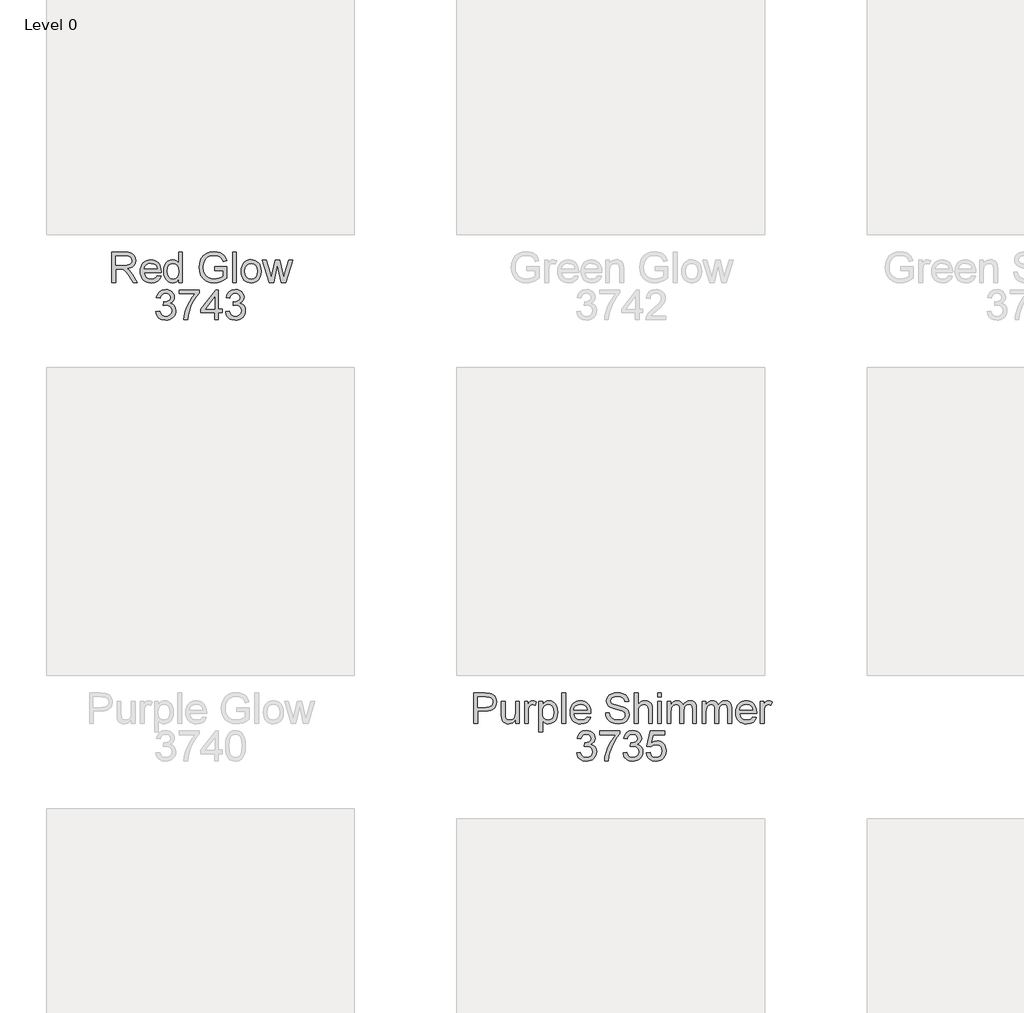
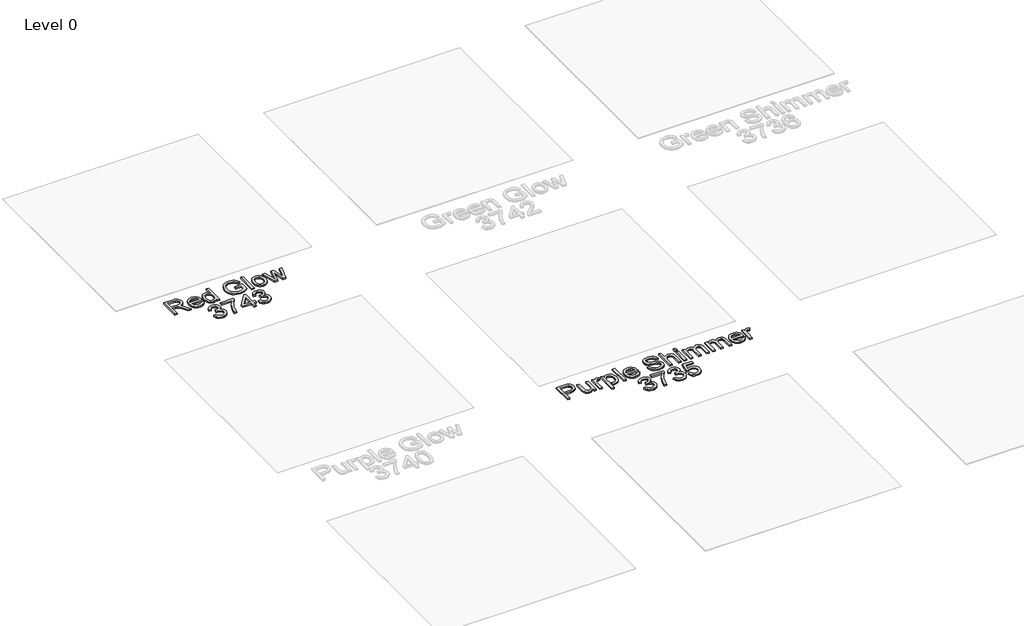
# One storey, part 5 of 14: 2 proxies.
"""IFC4 building model written with IfcOpenShell, lengths in millimetres."""

from ifc_helpers import new_model, si_unit, origin, origin_with_axes, place, context, project, spatial, polyline, outline, extrude, element, save

model = new_model("IFC4")

# Units and contexts
model_context = context("Model", 3, world=origin())
ifc_project = project(units=[si_unit("LENGTHUNIT", "METRE", prefix="MILLI")], contexts=[model_context])

# Site, building, storey
site = spatial("IfcSite", under=ifc_project)
building = spatial("IfcBuilding", under=site)
storey = spatial("IfcBuildingStorey", under=building, Name="Level 0", Elevation=0.0)

# Proxies
placement = place(None, origin())
element("IfcBuildingElementProxy", 1, Name="300mm Arial", ObjectType="300mm Arial", at=placement, inside=storey, context=model_context, shape_type="SweptSolid", body=[
    extrude(outline(polyline([(-8815.4214187, -2137.1730179), (-8815.4214187, -1841.7884025), (-8688.1377648, -1841.7884025), (-8653.9280292, -1843.78059), (-8629.0392071, -1849.7571525), (-8610.8481014, -1860.7908063), (-8596.7315148, -1877.9542679), (-8587.6720196, -1899.2373207), (-8584.6521879, -1922.6297486), (-8589.6551927, -1951.7283063), (-8604.6642071, -1975.8509025), (-8616.0336482, -1985.6811308), (-8630.1299523, -1993.5372005), (-8666.5031494, -2003.326864), (-8645.5175725, -2019.1201332), (-8615.5896879, -2057.1249409), (-8566.3348802, -2137.1730179), (-8609.243534, -2137.1730179), (-8647.681034, -2075.9470563), (-8675.4454571, -2035.4182102), (-8694.9526687, -2016.2715755), (-8712.5127648, -2009.2403255), (-8733.931034, -2007.9422486), (-8778.4983417, -2007.9422486), (-8778.4983417, -2137.1730179), (-8815.4214187, -2137.1730179)]), holes=[polyline([(-8778.4983417, -1971.0191717), (-8695.854111, -1971.0191717), (-8672.119135, -1969.7120804), (-8653.7026687, -1965.7908063), (-8639.838486, -1958.9939313), (-8629.760361, -1949.0600371), (-8623.6215389, -1937.0438111), (-8621.5752648, -1923.9999409), (-8625.47851, -1905.9891236), (-8637.1882456, -1891.4759025), (-8657.3354812, -1881.9025852), (-8686.5512264, -1878.7114794), (-8778.4983417, -1878.7114794), (-8778.4983417, -1971.0191717)])]), origin_with_axes(), (0.0, 0.0, 1.0), 20.0),
    extrude(outline(polyline([(-8372.7771879, -2072.5576332), (-8336.5752648, -2077.1730179), (-8349.619135, -2104.4506621), (-8370.4334379, -2124.8412871), (-8398.5494235, -2137.5516236), (-8433.4983417, -2141.7884025), (-8456.408498, -2139.9607282), (-8476.821659, -2134.4777054), (-8494.7378249, -2125.339334), (-8510.1569956, -2112.545614), (-8522.5563345, -2096.4526152), (-8531.4130052, -2077.4164073), (-8536.7270076, -2055.4369902), (-8538.4983417, -2030.514364), (-8536.7089788, -2004.7466356), (-8531.3408898, -1982.0347967), (-8522.3940749, -1962.3788472), (-8509.868534, -1945.7787871), (-8494.4899283, -1932.5906861), (-8476.9839187, -1923.170614), (-8457.3505052, -1917.5185707), (-8435.5896879, -1915.6345563), (-8414.529742, -1917.5140635), (-8395.4845196, -1923.1525852), (-8378.4540208, -1932.5501212), (-8363.4382456, -1945.7066717), (-8351.1808838, -1962.2706741), (-8342.4256254, -1981.8905659), (-8337.1724703, -2004.5663472), (-8335.4214187, -2030.2980179), (-8335.6377648, -2040.2499409), (-8501.5752648, -2040.2499409), (-8495.1840389, -2067.8881621), (-8480.337284, -2088.2066717), (-8458.9100004, -2100.7006621), (-8432.7771879, -2104.8653255), (-8413.1257456, -2102.936239), (-8396.5752648, -2097.1489794), (-8383.1257456, -2087.1429698), (-8372.7771879, -2072.5576332)]), holes=[polyline([(-8501.5752648, -2003.326864), (-8372.3444956, -2003.326864), (-8377.338486, -1983.8196525), (-8387.1281494, -1969.8653255), (-8408.6545917, -1956.8845563), (-8435.7339187, -1952.5576332), (-8460.6227408, -1956.0101573), (-8481.2026687, -1966.3677294), (-8495.5085581, -1982.5125611), (-8501.5752648, -2003.326864)])]), origin_with_axes(), (0.0, 0.0, 1.0), 20.0),
    extrude(outline(polyline([(-8164.6521879, -2137.1730179), (-8164.6521879, -2102.3412871), (-8175.6993634, -2119.5994001), (-8189.0812744, -2131.9266236), (-8204.7979211, -2139.3229578), (-8222.8493033, -2141.7884025), (-8246.7194956, -2138.2186909), (-8268.5704571, -2127.5095563), (-8287.0680533, -2110.4091957), (-8300.8781494, -2087.6658063), (-8309.477909, -2060.1988592), (-8312.3444956, -2028.9278255), (-8309.7032696, -1998.0444121), (-8301.7795917, -1970.1537871), (-8288.5824764, -1946.842489), (-8270.1209379, -1929.6970563), (-8247.7922119, -1919.1501813), (-8222.993534, -1915.6345563), (-8204.9286302, -1918.1495804), (-8188.9550725, -1925.6946525), (-8175.415409, -1937.2601573), (-8164.6521879, -1951.8364794), (-8164.6521879, -1841.7884025), (-8127.729111, -1841.7884025), (-8127.729111, -2137.1730179), (-8164.6521879, -2137.1730179)]), holes=[polyline([(-8275.4214187, -2028.7835948), (-8271.2567552, -2062.1820323), (-8258.7627648, -2085.9350371), (-8240.6077167, -2100.1327534), (-8219.4598802, -2104.8653255), (-8198.3210581, -2100.3490996), (-8180.6257456, -2086.8004217), (-8168.6455773, -2063.966888), (-8164.6521879, -2031.5960948), (-8168.7176927, -1996.2054698), (-8180.9142071, -1971.6682102), (-8199.0602408, -1957.3352775), (-8220.9743033, -1952.5576332), (-8242.338486, -1957.1459746), (-8259.8444956, -1970.9109986), (-8271.5271879, -1994.5558304), (-8275.4214187, -2028.7835948)])]), origin_with_axes(), (0.0, 0.0, 1.0), 20.0),
    extrude(outline(polyline([(-7813.8829571, -2021.7884025), (-7813.8829571, -1984.8653255), (-7693.8829571, -1984.8653255), (-7693.8829571, -2095.2739794), (-7723.0446158, -2115.5564313), (-7753.1257456, -2130.1057102), (-7784.0542312, -2138.8677294), (-7815.7579571, -2141.7884025), (-7857.1792312, -2137.1459746), (-7894.6161302, -2123.2186909), (-7925.7158898, -2100.4933304), (-7948.1257456, -2069.4566717), (-7961.6744235, -2032.2271044), (-7966.1906494, -1990.9230179), (-7961.6924523, -1949.3214554), (-7948.197861, -1910.6225371), (-7926.2657696, -1878.1615996), (-7896.4550725, -1855.2739794), (-7860.1449764, -1841.6982582), (-7818.7146879, -1837.1730179), (-7788.3000244, -1839.796215), (-7760.9502648, -1847.6658063), (-7737.9184139, -1860.2138832), (-7720.4574764, -1876.8725371), (-7707.5398081, -1898.4440515), (-7698.1377648, -1925.7307102), (-7732.1762264, -1935.3220563), (-7739.775385, -1915.8599169), (-7749.0151687, -1901.1754217), (-7761.2387264, -1890.1057102), (-7777.7892071, -1881.4879217), (-7797.5217792, -1875.9440515), (-7819.291611, -1874.0960948), (-7844.775385, -1876.0882823), (-7866.5632456, -1882.0648448), (-7884.5740629, -1891.2775852), (-7898.7267071, -1902.9783063), (-7917.729111, -1931.4278255), (-7926.3829571, -1959.3004217), (-7929.2675725, -1989.4085948), (-7925.7970196, -2024.71809), (-7915.385361, -2053.7715755), (-7898.3481014, -2076.3617198), (-7875.0007456, -2092.2811909), (-7847.6780292, -2101.7192919), (-7818.7146879, -2104.8653255), (-7793.1407696, -2102.4945323), (-7768.197861, -2095.3821525), (-7746.5362023, -2085.5834746), (-7730.806034, -2075.1537871), (-7730.806034, -2021.7884025), (-7813.8829571, -2021.7884025)])), origin_with_axes(), (0.0, 0.0, 1.0), 20.0),
    extrude(outline(polyline([(-7638.4983417, -2137.1730179), (-7638.4983417, -1841.7884025), (-7601.5752648, -1841.7884025), (-7601.5752648, -2137.1730179), (-7638.4983417, -2137.1730179)])), origin_with_axes(), (0.0, 0.0, 1.0), 20.0),
    extrude(outline(polyline([(-7555.4214187, -2028.7114794), (-7553.4247239, -2000.6180299), (-7547.4346398, -1976.4097967), (-7537.4511663, -1956.0867799), (-7523.4743033, -1939.6489794), (-7509.4027889, -1929.1426693), (-7493.8709379, -1921.6381621), (-7476.8787504, -1917.1354578), (-7458.4262264, -1915.6345563), (-7438.0558838, -1917.4622306), (-7419.6371639, -1922.9452534), (-7403.1700665, -1932.0836248), (-7388.6545917, -1944.8773448), (-7376.8073862, -1960.893721), (-7368.3450965, -1979.7000611), (-7363.2677227, -2001.2963652), (-7361.5752648, -2025.6826332), (-7364.5680533, -2062.9843159), (-7373.5464187, -2091.3797486), (-7388.2489427, -2112.6447727), (-7408.4142071, -2128.5552294), (-7432.3655292, -2138.4801092), (-7458.4262264, -2141.7884025), (-7479.0940449, -2139.967489), (-7497.6840389, -2134.5047486), (-7514.1962083, -2125.4001813), (-7528.6305533, -2112.6537871), (-7540.3515569, -2096.4819121), (-7548.7237023, -2077.1009025), (-7553.7469896, -2054.5107582), (-7555.4214187, -2028.7114794)]), holes=[polyline([(-7518.4983417, -2028.639364), (-7514.2255052, -2062.0558304), (-7501.4069956, -2085.8629217), (-7482.1161302, -2100.1147246), (-7458.4262264, -2104.8653255), (-7434.8444956, -2100.0876813), (-7415.5896879, -2085.7547486), (-7402.7711783, -2061.6321525), (-7398.4983417, -2027.4855179), (-7402.7982215, -1995.0426092), (-7415.697861, -1971.5600371), (-7434.9797119, -1957.3082342), (-7458.4262264, -1952.5576332), (-7482.1161302, -1957.2902054), (-7501.4069956, -1971.4879217), (-7514.2255052, -1995.2409265), (-7518.4983417, -2028.639364)])]), origin_with_axes(), (0.0, 0.0, 1.0), 20.0),
    extrude(outline(polyline([(-7284.0512264, -2137.1730179), (-7350.0368033, -1920.2499409), (-7311.6714187, -1920.2499409), (-7274.243534, -2046.8124409), (-7263.0656494, -2092.0287871), (-7253.9069956, -2048.4710948), (-7224.1233417, -1920.2499409), (-7180.1329571, -1920.2499409), (-7150.493534, -2048.1105179), (-7142.3444956, -2087.5576332), (-7130.6618033, -2045.9470563), (-7093.1618033, -1920.2499409), (-7054.6521879, -1920.2499409), (-7121.1425725, -2137.1730179), (-7165.7819956, -2137.1730179), (-7194.1233417, -2009.9614794), (-7202.3444956, -1970.2980179), (-7238.9069956, -2137.1730179), (-7284.0512264, -2137.1730179)])), origin_with_axes(), (0.0, 0.0, 1.0), 20.0),
    extrude(outline(polyline([(-8386.1906494, -2423.326864), (-8349.2675725, -2418.7114794), (-8341.0013465, -2441.9146044), (-8328.8949764, -2457.5816717), (-8312.35351, -2466.5059505), (-8290.7819956, -2469.4807102), (-8265.4694956, -2465.3881621), (-8245.9262264, -2453.1105179), (-8233.432236, -2434.7932102), (-8229.2675725, -2412.5816717), (-8233.3961783, -2391.4969361), (-8245.7819956, -2374.3965755), (-8264.5319956, -2363.0654457), (-8287.7531494, -2359.2884025), (-8313.6425725, -2363.326864), (-8309.5319956, -2326.4037871), (-8303.618534, -2326.8364794), (-8281.4971398, -2324.186239), (-8261.7194956, -2316.2355179), (-8247.7651687, -2302.7859986), (-8243.1137264, -2283.639364), (-8246.4851206, -2267.6928496), (-8256.5993033, -2254.7571525), (-8272.0319956, -2246.1844361), (-8291.3589187, -2243.326864), (-8310.7218994, -2246.2114794), (-8326.5512264, -2254.8653255), (-8338.1077167, -2269.2884025), (-8344.6521879, -2289.4807102), (-8381.5752648, -2284.8653255), (-8370.7038706, -2251.7102775), (-8351.3589187, -2226.9566717), (-8324.8925725, -2211.5420082), (-8292.6569956, -2206.4037871), (-8269.4448562, -2208.93684), (-8248.1257456, -2216.5359986), (-8230.150986, -2228.5251813), (-8216.9718994, -2244.2283063), (-8208.8859619, -2262.3202534), (-8206.1906494, -2281.4759025), (-8208.7507456, -2299.3244602), (-8216.431034, -2315.514364), (-8229.1233417, -2329.3064313), (-8246.7194956, -2339.9614794), (-8223.6065148, -2349.3004217), (-8206.479111, -2365.201864), (-8195.8781494, -2386.8004217), (-8192.3444956, -2413.2307102), (-8194.1113225, -2431.9626813), (-8199.4118033, -2449.2162871), (-8208.2459379, -2464.9915275), (-8220.6137264, -2479.2884025), (-8235.6813345, -2491.1513832), (-8252.6149283, -2499.6249409), (-8271.4145076, -2504.7090755), (-8292.0800725, -2506.4037871), (-8327.7771879, -2500.6165275), (-8343.1377648, -2493.3824529), (-8356.8396879, -2483.2547486), (-8368.3285701, -2470.8283664), (-8377.0500244, -2456.6982582), (-8386.1906494, -2423.326864)])), origin_with_axes(), (0.0, 0.0, 1.0), 20.0),
    extrude(outline(polyline([(-8160.0368033, -2247.9422486), (-8160.0368033, -2211.0191717), (-7966.1906494, -2211.0191717), (-7966.1906494, -2240.8749409), (-7993.8198562, -2275.841888), (-8021.1786302, -2320.3100371), (-8045.3102408, -2370.2228977), (-8063.2579571, -2421.5239794), (-8072.056034, -2459.9073929), (-8076.9598802, -2501.7884025), (-8113.8829571, -2501.7884025), (-8109.8895677, -2463.7295082), (-8099.2074764, -2418.4951332), (-8082.1251446, -2370.5474169), (-8058.931034, -2324.3484986), (-8031.8517071, -2282.5846765), (-8003.1137264, -2247.9422486), (-8160.0368033, -2247.9422486)])), origin_with_axes(), (0.0, 0.0, 1.0), 20.0),
    extrude(outline(polyline([(-7813.8829571, -2501.7884025), (-7813.8829571, -2432.5576332), (-7947.729111, -2432.5576332), (-7947.729111, -2395.6345563), (-7804.6521879, -2211.0191717), (-7776.9598802, -2211.0191717), (-7776.9598802, -2395.6345563), (-7740.0368033, -2395.6345563), (-7740.0368033, -2432.5576332), (-7776.9598802, -2432.5576332), (-7776.9598802, -2501.7884025), (-7813.8829571, -2501.7884025)]), holes=[polyline([(-7813.8829571, -2395.6345563), (-7813.8829571, -2281.5480179), (-7902.2964187, -2395.6345563), (-7813.8829571, -2395.6345563)])]), origin_with_axes(), (0.0, 0.0, 1.0), 20.0),
    extrude(outline(polyline([(-7707.729111, -2423.326864), (-7670.806034, -2418.7114794), (-7662.5398081, -2441.9146044), (-7650.4334379, -2457.5816717), (-7633.8919715, -2466.5059505), (-7612.3204571, -2469.4807102), (-7587.0079571, -2465.3881621), (-7567.4646879, -2453.1105179), (-7554.9706975, -2434.7932102), (-7550.806034, -2412.5816717), (-7554.9346398, -2391.4969361), (-7567.3204571, -2374.3965755), (-7586.0704571, -2363.0654457), (-7609.291611, -2359.2884025), (-7635.181034, -2363.326864), (-7631.0704571, -2326.4037871), (-7625.1569956, -2326.8364794), (-7603.0356014, -2324.186239), (-7583.2579571, -2316.2355179), (-7569.3036302, -2302.7859986), (-7564.6521879, -2283.639364), (-7568.0235821, -2267.6928496), (-7578.1377648, -2254.7571525), (-7593.5704571, -2246.1844361), (-7612.8973802, -2243.326864), (-7632.260361, -2246.2114794), (-7648.0896879, -2254.8653255), (-7659.6461783, -2269.2884025), (-7666.1906494, -2289.4807102), (-7703.1137264, -2284.8653255), (-7692.2423321, -2251.7102775), (-7672.8973802, -2226.9566717), (-7646.431034, -2211.5420082), (-7614.1954571, -2206.4037871), (-7590.9833177, -2208.93684), (-7569.6642071, -2216.5359986), (-7551.6894475, -2228.5251813), (-7538.510361, -2244.2283063), (-7530.4244235, -2262.3202534), (-7527.729111, -2281.4759025), (-7530.2892071, -2299.3244602), (-7537.9694956, -2315.514364), (-7550.6618033, -2329.3064313), (-7568.2579571, -2339.9614794), (-7545.1449764, -2349.3004217), (-7528.0175725, -2365.201864), (-7517.416611, -2386.8004217), (-7513.8829571, -2413.2307102), (-7515.649784, -2431.9626813), (-7520.9502648, -2449.2162871), (-7529.7843994, -2464.9915275), (-7542.1521879, -2479.2884025), (-7557.2197961, -2491.1513832), (-7574.1533898, -2499.6249409), (-7592.9529691, -2504.7090755), (-7613.618534, -2506.4037871), (-7649.3156494, -2500.6165275), (-7664.6762264, -2493.3824529), (-7678.3781494, -2483.2547486), (-7689.8670316, -2470.8283664), (-7698.588486, -2456.6982582), (-7707.729111, -2423.326864)])), origin_with_axes(), (0.0, 0.0, 1.0), 20.0),
])
element("IfcBuildingElementProxy", 2, Name="300mm Arial", ObjectType="300mm Arial", at=placement, inside=storey, context=model_context, shape_type="SweptSolid", body=[
    extrude(outline(polyline([(-5287.729111, -6437.1730179), (-5287.729111, -6141.7884025), (-5178.2579571, -6141.7884025), (-5134.1233417, -6144.6009025), (-5114.4448562, -6149.8563111), (-5098.2459379, -6158.4109986), (-5085.2020677, -6170.6525852), (-5074.9887264, -6186.9686909), (-5068.3901687, -6206.2144842), (-5066.1906494, -6227.2451332), (-5072.1311542, -6262.0588352), (-5079.5567852, -6277.2887029), (-5089.9526687, -6291.0672486), (-5104.224754, -6302.4885227), (-5123.2789908, -6310.6465755), (-5147.115379, -6315.5414073), (-5175.7339187, -6317.1730179), (-5250.806034, -6317.1730179), (-5250.806034, -6437.1730179), (-5287.729111, -6437.1730179)]), holes=[polyline([(-5250.806034, -6280.2499409), (-5173.5704571, -6280.2499409), (-5140.8300725, -6276.8605179), (-5119.1954571, -6266.6922486), (-5107.134159, -6250.3761429), (-5103.1137264, -6228.5432102), (-5105.4845196, -6211.9566717), (-5112.5968994, -6197.9662871), (-5123.5674523, -6187.4374409), (-5137.5127648, -6181.2355179), (-5174.4358417, -6178.7114794), (-5250.806034, -6178.7114794), (-5250.806034, -6280.2499409)])]), origin_with_axes(), (0.0, 0.0, 1.0), 20.0),
    extrude(outline(polyline([(-4881.5752648, -6437.1730179), (-4881.5752648, -6399.889364), (-4894.9346398, -6418.2201933), (-4910.493534, -6431.3136429), (-4928.2519475, -6439.1697126), (-4948.2098802, -6441.7884025), (-4966.1936542, -6439.9494602), (-4982.9334379, -6434.4326332), (-4996.977909, -6426.139364), (-5006.8757456, -6415.9710948), (-5017.8733417, -6388.7835948), (-5020.0368033, -6354.4566717), (-5020.0368033, -6220.2499409), (-4983.1137264, -6220.2499409), (-4983.1137264, -6337.076864), (-4980.8781494, -6374.7210948), (-4975.4965389, -6387.2781861), (-4966.274784, -6396.8244602), (-4953.8258658, -6402.8551092), (-4938.7627648, -6404.8653255), (-4922.8342792, -6402.8100371), (-4907.9334379, -6396.6441717), (-4895.6467792, -6386.935638), (-4887.5608417, -6374.2523448), (-4883.071659, -6356.8815515), (-4881.5752648, -6333.1105179), (-4881.5752648, -6220.2499409), (-4844.6521879, -6220.2499409), (-4844.6521879, -6437.1730179), (-4881.5752648, -6437.1730179)])), origin_with_axes(), (0.0, 0.0, 1.0), 20.0),
    extrude(outline(polyline([(-4793.8829571, -6437.1730179), (-4793.8829571, -6220.2499409), (-4761.5752648, -6220.2499409), (-4761.5752648, -6252.3412871), (-4749.6401687, -6233.7355179), (-4738.6425725, -6222.7739794), (-4727.6089187, -6217.4194121), (-4715.5656494, -6215.6345563), (-4697.1762264, -6218.483114), (-4678.4983417, -6227.0287871), (-4690.8300725, -6260.1297486), (-4703.8108417, -6254.4506621), (-4716.791611, -6252.5576332), (-4727.8162504, -6254.3785467), (-4737.6690148, -6259.8412871), (-4745.6287504, -6268.5311909), (-4750.9743033, -6280.0335948), (-4755.463486, -6300.6585948), (-4756.9598802, -6323.1585948), (-4756.9598802, -6437.1730179), (-4793.8829571, -6437.1730179)])), origin_with_axes(), (0.0, 0.0, 1.0), 20.0),
    extrude(outline(polyline([(-4655.4214187, -6520.2499409), (-4655.4214187, -6220.2499409), (-4618.4983417, -6220.2499409), (-4618.4983417, -6256.451864), (-4606.4550725, -6238.5942919), (-4592.9694956, -6225.8388832), (-4577.2483417, -6218.185638), (-4558.4983417, -6215.6345563), (-4533.5283898, -6219.2042679), (-4511.6954571, -6229.9134025), (-4493.9190148, -6247.1129217), (-4481.118534, -6270.1537871), (-4473.384159, -6297.3593159), (-4470.806034, -6327.0528255), (-4473.7176927, -6358.6303496), (-4482.4526687, -6386.8725371), (-4496.7315148, -6410.3460948), (-4516.274784, -6427.6177294), (-4539.0362023, -6438.2457342), (-4562.9694956, -6441.7884025), (-4579.9436542, -6439.4176092), (-4595.0968994, -6432.3052294), (-4608.0686542, -6421.5690515), (-4618.4983417, -6408.326864), (-4618.4983417, -6520.2499409), (-4655.4214187, -6520.2499409)]), holes=[polyline([(-4618.4983417, -6330.4422486), (-4614.5049523, -6363.5432102), (-4602.524784, -6386.6922486), (-4584.8475004, -6400.3220563), (-4563.7627648, -6404.8653255), (-4542.3354812, -6400.1597967), (-4524.2074764, -6386.0432102), (-4511.8487023, -6362.0468159), (-4507.729111, -6327.701864), (-4511.7495437, -6294.7811909), (-4523.8108417, -6271.3076332), (-4541.4610821, -6257.2451332), (-4562.2483417, -6252.5576332), (-4583.1167312, -6257.5426092), (-4601.4430533, -6272.4975371), (-4614.2345196, -6296.9536669), (-4618.4983417, -6330.4422486)])]), origin_with_axes(), (0.0, 0.0, 1.0), 20.0),
    extrude(outline(polyline([(-4429.2675725, -6437.1730179), (-4429.2675725, -6141.7884025), (-4392.3444956, -6141.7884025), (-4392.3444956, -6437.1730179), (-4429.2675725, -6437.1730179)])), origin_with_axes(), (0.0, 0.0, 1.0), 20.0),
    extrude(outline(polyline([(-4185.0848802, -6372.5576332), (-4148.8829571, -6377.1730179), (-4161.9268273, -6404.4506621), (-4182.7411302, -6424.8412871), (-4210.8571158, -6437.5516236), (-4245.806034, -6441.7884025), (-4268.7161903, -6439.9607282), (-4289.1293514, -6434.4777054), (-4307.0455172, -6425.339334), (-4322.4646879, -6412.545614), (-4334.8640268, -6396.4526152), (-4343.7206975, -6377.4164073), (-4349.0346999, -6355.4369902), (-4350.806034, -6330.514364), (-4349.0166711, -6304.7466356), (-4343.6485821, -6282.0347967), (-4334.7017672, -6262.3788472), (-4322.1762264, -6245.7787871), (-4306.7976206, -6232.5906861), (-4289.291611, -6223.170614), (-4269.6581975, -6217.5185707), (-4247.8973802, -6215.6345563), (-4226.8374343, -6217.5140635), (-4207.7922119, -6223.1525852), (-4190.7617131, -6232.5501212), (-4175.7459379, -6245.7066717), (-4163.4885761, -6262.2706741), (-4154.7333177, -6281.8905659), (-4149.4801627, -6304.5663472), (-4147.729111, -6330.2980179), (-4147.9454571, -6340.2499409), (-4313.8829571, -6340.2499409), (-4307.4917312, -6367.8881621), (-4292.6449764, -6388.2066717), (-4271.2176927, -6400.7006621), (-4245.0848802, -6404.8653255), (-4225.4334379, -6402.936239), (-4208.8829571, -6397.1489794), (-4195.4334379, -6387.1429698), (-4185.0848802, -6372.5576332)]), holes=[polyline([(-4313.8829571, -6303.326864), (-4184.6521879, -6303.326864), (-4189.6461783, -6283.8196525), (-4199.4358417, -6269.8653255), (-4220.962284, -6256.8845563), (-4248.041611, -6252.5576332), (-4272.9304331, -6256.0101573), (-4293.510361, -6266.3677294), (-4307.8162504, -6282.5125611), (-4313.8829571, -6303.326864)])]), origin_with_axes(), (0.0, 0.0, 1.0), 20.0),
    extrude(outline(polyline([(-4004.6521879, -6335.6345563), (-3967.729111, -6335.6345563), (-3963.4923321, -6356.12434), (-3955.8300725, -6372.5936909), (-3943.8769475, -6385.6646044), (-3926.7675725, -6395.9590755), (-3905.854111, -6402.638763), (-3882.4887264, -6404.8653255), (-3861.9178129, -6403.1796284), (-3843.9069956, -6398.1225371), (-3829.3126446, -6390.1177294), (-3818.9911302, -6379.5888832), (-3812.8523081, -6367.5005419), (-3810.806034, -6354.8172486), (-3812.338486, -6342.4584746), (-3816.9358417, -6331.7763832), (-3826.274784, -6322.6628015), (-3842.0319956, -6315.0095563), (-3895.7940148, -6300.9109986), (-3931.0854812, -6291.5810707), (-3953.666611, -6282.701864), (-3972.0470196, -6270.279989), (-3985.072861, -6255.2259025), (-3992.8342792, -6237.8641236), (-3995.4214187, -6218.5191717), (-3992.2212985, -6196.8935707), (-3982.6209379, -6176.7283063), (-3966.8727408, -6159.6369602), (-3945.229111, -6147.233114), (-3919.2495437, -6139.6880419), (-3890.493534, -6137.1730179), (-3859.3396879, -6139.8052294), (-3832.0800725, -6147.701864), (-3809.6882456, -6160.7006621), (-3793.1377648, -6178.639364), (-3782.6630052, -6200.4001813), (-3778.4983417, -6224.8653255), (-3815.4214187, -6224.8653255), (-3822.2002648, -6202.8340755), (-3836.3348802, -6186.9326332), (-3858.4202167, -6177.3052294), (-3889.0512264, -6174.0960948), (-3920.4033898, -6177.2691717), (-3941.9118033, -6186.7884025), (-3954.3517071, -6200.7968159), (-3958.4983417, -6217.4374409), (-3955.5596398, -6231.6261429), (-3946.743534, -6243.0384025), (-3925.9021879, -6253.2427294), (-3886.4550725, -6263.6634025), (-3821.118534, -6282.1970563), (-3800.0698562, -6295.592489), (-3785.385361, -6312.1249409), (-3776.7585581, -6331.6141236), (-3773.8829571, -6353.8797486), (-3777.1912504, -6376.6411669), (-3787.1161302, -6398.0504217), (-3803.2519475, -6416.4759025), (-3825.1930533, -6430.2859986), (-3851.5782696, -6438.9128015), (-3881.0464187, -6441.7884025), (-3917.2212985, -6438.6874409), (-3946.9959379, -6429.3845563), (-3970.712885, -6413.8436909), (-3988.7146879, -6392.0287871), (-4000.2711783, -6365.4542679), (-4004.6521879, -6335.6345563)])), origin_with_axes(), (0.0, 0.0, 1.0), 20.0),
    extrude(outline(polyline([(-3723.1137264, -6437.1730179), (-3723.1137264, -6141.7884025), (-3686.1906494, -6141.7884025), (-3686.1906494, -6250.3941717), (-3672.6284499, -6235.18684), (-3657.3985821, -6224.3244602), (-3640.5010461, -6217.8070323), (-3621.9358417, -6215.6345563), (-3599.634159, -6218.0053496), (-3580.4694956, -6225.1177294), (-3565.3793514, -6236.4128015), (-3555.3012264, -6251.3316717), (-3549.6221398, -6271.8304698), (-3547.729111, -6299.8653255), (-3547.729111, -6437.1730179), (-3584.6521879, -6437.1730179), (-3584.6521879, -6303.6874409), (-3587.5908898, -6280.5744602), (-3596.4069956, -6264.7451332), (-3610.6137264, -6255.6045082), (-3629.7243033, -6252.5576332), (-3645.3282696, -6254.6129217), (-3659.9767071, -6260.7787871), (-3672.1101206, -6270.4602775), (-3680.1690148, -6283.0624409), (-3684.6852408, -6299.811239), (-3686.1906494, -6321.9326332), (-3686.1906494, -6437.1730179), (-3723.1137264, -6437.1730179)])), origin_with_axes(), (0.0, 0.0, 1.0), 20.0),
    extrude(outline(polyline([(-3496.9598802, -6437.1730179), (-3496.9598802, -6220.2499409), (-3460.0368033, -6220.2499409), (-3460.0368033, -6437.1730179), (-3496.9598802, -6437.1730179)])), origin_with_axes(), (0.0, 0.0, 1.0), 20.0),
    extrude(outline(polyline([(-3496.9598802, -6178.7114794), (-3496.9598802, -6141.7884025), (-3460.0368033, -6141.7884025), (-3460.0368033, -6178.7114794), (-3496.9598802, -6178.7114794)])), origin_with_axes(), (0.0, 0.0, 1.0), 20.0),
    extrude(outline(polyline([(-3404.6521879, -6437.1730179), (-3404.6521879, -6220.2499409), (-3367.729111, -6220.2499409), (-3367.729111, -6255.9470563), (-3356.6233417, -6239.5498207), (-3342.3444956, -6226.7042679), (-3325.3793514, -6218.4019842), (-3306.2146879, -6215.6345563), (-3285.6798321, -6218.4560707), (-3269.2194956, -6226.920614), (-3256.9238225, -6240.4692919), (-3248.8829571, -6258.5432102), (-3235.4244235, -6239.7706741), (-3220.072861, -6226.3617198), (-3202.8282696, -6218.3163472), (-3183.6906494, -6215.6345563), (-3155.9352408, -6220.0966957), (-3135.4093994, -6233.483114), (-3122.7261062, -6256.154388), (-3118.4983417, -6288.4710948), (-3118.4983417, -6437.1730179), (-3155.4214187, -6437.1730179), (-3155.4214187, -6304.3364794), (-3158.8468994, -6273.5071525), (-3163.6606014, -6265.0065515), (-3171.2507456, -6258.326864), (-3181.0133658, -6253.9999409), (-3192.3444956, -6252.5576332), (-3212.3475004, -6256.2535467), (-3228.6545917, -6267.3412871), (-3239.4989427, -6286.5780659), (-3243.1137264, -6314.7210948), (-3243.1137264, -6437.1730179), (-3280.0368033, -6437.1730179), (-3280.0368033, -6300.2259025), (-3282.1732215, -6279.3484986), (-3288.5824764, -6264.4566717), (-3299.8595196, -6255.5323929), (-3316.5993033, -6252.5576332), (-3330.8240629, -6254.5408063), (-3343.931034, -6260.4903255), (-3354.7483417, -6270.2619602), (-3362.104111, -6283.7114794), (-3366.322861, -6302.3713352), (-3367.729111, -6327.7739794), (-3367.729111, -6437.1730179), (-3404.6521879, -6437.1730179)])), origin_with_axes(), (0.0, 0.0, 1.0), 20.0),
    extrude(outline(polyline([(-3063.1137264, -6437.1730179), (-3063.1137264, -6220.2499409), (-3026.1906494, -6220.2499409), (-3026.1906494, -6255.9470563), (-3015.0848802, -6239.5498207), (-3000.806034, -6226.7042679), (-2983.8408898, -6218.4019842), (-2964.6762264, -6215.6345563), (-2944.1413706, -6218.4560707), (-2927.681034, -6226.920614), (-2915.385361, -6240.4692919), (-2907.3444956, -6258.5432102), (-2893.8859619, -6239.7706741), (-2878.5343994, -6226.3617198), (-2861.2898081, -6218.3163472), (-2842.1521879, -6215.6345563), (-2814.3967792, -6220.0966957), (-2793.8709379, -6233.483114), (-2781.1876446, -6256.154388), (-2776.9598802, -6288.4710948), (-2776.9598802, -6437.1730179), (-2813.8829571, -6437.1730179), (-2813.8829571, -6304.3364794), (-2817.3084379, -6273.5071525), (-2822.1221398, -6265.0065515), (-2829.712284, -6258.326864), (-2839.4749042, -6253.9999409), (-2850.806034, -6252.5576332), (-2870.8090389, -6256.2535467), (-2887.1161302, -6267.3412871), (-2897.9604812, -6286.5780659), (-2901.5752648, -6314.7210948), (-2901.5752648, -6437.1730179), (-2938.4983417, -6437.1730179), (-2938.4983417, -6300.2259025), (-2940.63476, -6279.3484986), (-2947.0440148, -6264.4566717), (-2958.3210581, -6255.5323929), (-2975.0608417, -6252.5576332), (-2989.2856014, -6254.5408063), (-3002.3925725, -6260.4903255), (-3013.2098802, -6270.2619602), (-3020.5656494, -6283.7114794), (-3024.7843994, -6302.3713352), (-3026.1906494, -6327.7739794), (-3026.1906494, -6437.1730179), (-3063.1137264, -6437.1730179)])), origin_with_axes(), (0.0, 0.0, 1.0), 20.0),
    extrude(outline(polyline([(-2569.7002648, -6372.5576332), (-2533.4983417, -6377.1730179), (-2546.5422119, -6404.4506621), (-2567.3565148, -6424.8412871), (-2595.4725004, -6437.5516236), (-2630.4214187, -6441.7884025), (-2653.3315749, -6439.9607282), (-2673.744736, -6434.4777054), (-2691.6609018, -6425.339334), (-2707.0800725, -6412.545614), (-2719.4794114, -6396.4526152), (-2728.3360821, -6377.4164073), (-2733.6500845, -6355.4369902), (-2735.4214187, -6330.514364), (-2733.6320557, -6304.7466356), (-2728.2639667, -6282.0347967), (-2719.3171518, -6262.3788472), (-2706.791611, -6245.7787871), (-2691.4130052, -6232.5906861), (-2673.9069956, -6223.170614), (-2654.2735821, -6217.5185707), (-2632.5127648, -6215.6345563), (-2611.4528189, -6217.5140635), (-2592.4075965, -6223.1525852), (-2575.3770977, -6232.5501212), (-2560.3613225, -6245.7066717), (-2548.1039607, -6262.2706741), (-2539.3487023, -6281.8905659), (-2534.0955473, -6304.5663472), (-2532.3444956, -6330.2980179), (-2532.5608417, -6340.2499409), (-2698.4983417, -6340.2499409), (-2692.1071158, -6367.8881621), (-2677.260361, -6388.2066717), (-2655.8330773, -6400.7006621), (-2629.7002648, -6404.8653255), (-2610.0488225, -6402.936239), (-2593.4983417, -6397.1489794), (-2580.0488225, -6387.1429698), (-2569.7002648, -6372.5576332)]), holes=[polyline([(-2698.4983417, -6303.326864), (-2569.2675725, -6303.326864), (-2574.2615629, -6283.8196525), (-2584.0512264, -6269.8653255), (-2605.5776687, -6256.8845563), (-2632.6569956, -6252.5576332), (-2657.5458177, -6256.0101573), (-2678.1257456, -6266.3677294), (-2692.431635, -6282.5125611), (-2698.4983417, -6303.326864)])]), origin_with_axes(), (0.0, 0.0, 1.0), 20.0),
    extrude(outline(polyline([(-2495.4214187, -6437.1730179), (-2495.4214187, -6220.2499409), (-2463.1137264, -6220.2499409), (-2463.1137264, -6252.3412871), (-2451.1786302, -6233.7355179), (-2440.181034, -6222.7739794), (-2429.1473802, -6217.4194121), (-2417.104111, -6215.6345563), (-2398.7146879, -6218.483114), (-2380.0368033, -6227.0287871), (-2392.368534, -6260.1297486), (-2405.3493033, -6254.4506621), (-2418.3300725, -6252.5576332), (-2429.3547119, -6254.3785467), (-2439.2074764, -6259.8412871), (-2447.1672119, -6268.5311909), (-2452.5127648, -6280.0335948), (-2457.0019475, -6300.6585948), (-2458.4983417, -6323.1585948), (-2458.4983417, -6437.1730179), (-2495.4214187, -6437.1730179)])), origin_with_axes(), (0.0, 0.0, 1.0), 20.0),
    extrude(outline(polyline([(-4286.1906494, -6723.326864), (-4249.2675725, -6718.7114794), (-4241.0013465, -6741.9146044), (-4228.8949764, -6757.5816717), (-4212.35351, -6766.5059505), (-4190.7819956, -6769.4807102), (-4165.4694956, -6765.3881621), (-4145.9262264, -6753.1105179), (-4133.432236, -6734.7932102), (-4129.2675725, -6712.5816717), (-4133.3961783, -6691.4969361), (-4145.7819956, -6674.3965755), (-4164.5319956, -6663.0654457), (-4187.7531494, -6659.2884025), (-4213.6425725, -6663.326864), (-4209.5319956, -6626.4037871), (-4203.618534, -6626.8364794), (-4181.4971398, -6624.186239), (-4161.7194956, -6616.2355179), (-4147.7651687, -6602.7859986), (-4143.1137264, -6583.639364), (-4146.4851206, -6567.6928496), (-4156.5993033, -6554.7571525), (-4172.0319956, -6546.1844361), (-4191.3589187, -6543.326864), (-4210.7218994, -6546.2114794), (-4226.5512264, -6554.8653255), (-4238.1077167, -6569.2884025), (-4244.6521879, -6589.4807102), (-4281.5752648, -6584.8653255), (-4270.7038706, -6551.7102775), (-4251.3589187, -6526.9566717), (-4224.8925725, -6511.5420082), (-4192.6569956, -6506.4037871), (-4169.4448562, -6508.93684), (-4148.1257456, -6516.5359986), (-4130.150986, -6528.5251813), (-4116.9718994, -6544.2283063), (-4108.8859619, -6562.3202534), (-4106.1906494, -6581.4759025), (-4108.7507456, -6599.3244602), (-4116.431034, -6615.514364), (-4129.1233417, -6629.3064313), (-4146.7194956, -6639.9614794), (-4123.6065148, -6649.3004217), (-4106.479111, -6665.201864), (-4095.8781494, -6686.8004217), (-4092.3444956, -6713.2307102), (-4094.1113225, -6731.9626813), (-4099.4118033, -6749.2162871), (-4108.2459379, -6764.9915275), (-4120.6137264, -6779.2884025), (-4135.6813345, -6791.1513832), (-4152.6149283, -6799.6249409), (-4171.4145076, -6804.7090755), (-4192.0800725, -6806.4037871), (-4227.7771879, -6800.6165275), (-4243.1377648, -6793.3824529), (-4256.8396879, -6783.2547486), (-4268.3285701, -6770.8283664), (-4277.0500244, -6756.6982582), (-4286.1906494, -6723.326864)])), origin_with_axes(), (0.0, 0.0, 1.0), 20.0),
    extrude(outline(polyline([(-4060.0368033, -6547.9422486), (-4060.0368033, -6511.0191717), (-3866.1906494, -6511.0191717), (-3866.1906494, -6540.8749409), (-3893.8198562, -6575.841888), (-3921.1786302, -6620.3100371), (-3945.3102408, -6670.2228977), (-3963.2579571, -6721.5239794), (-3972.056034, -6759.9073929), (-3976.9598802, -6801.7884025), (-4013.8829571, -6801.7884025), (-4009.8895677, -6763.7295082), (-3999.2074764, -6718.4951332), (-3982.1251446, -6670.5474169), (-3958.931034, -6624.3484986), (-3931.8517071, -6582.5846765), (-3903.1137264, -6547.9422486), (-4060.0368033, -6547.9422486)])), origin_with_axes(), (0.0, 0.0, 1.0), 20.0),
    extrude(outline(polyline([(-3833.8829571, -6723.326864), (-3796.9598802, -6718.7114794), (-3788.6936542, -6741.9146044), (-3776.587284, -6757.5816717), (-3760.0458177, -6766.5059505), (-3738.4743033, -6769.4807102), (-3713.1618033, -6765.3881621), (-3693.618534, -6753.1105179), (-3681.1245437, -6734.7932102), (-3676.9598802, -6712.5816717), (-3681.088486, -6691.4969361), (-3693.4743033, -6674.3965755), (-3712.2243033, -6663.0654457), (-3735.4454571, -6659.2884025), (-3761.3348802, -6663.326864), (-3757.2243033, -6626.4037871), (-3751.3108417, -6626.8364794), (-3729.1894475, -6624.186239), (-3709.4118033, -6616.2355179), (-3695.4574764, -6602.7859986), (-3690.806034, -6583.639364), (-3694.1774283, -6567.6928496), (-3704.291611, -6554.7571525), (-3719.7243033, -6546.1844361), (-3739.0512264, -6543.326864), (-3758.4142071, -6546.2114794), (-3774.243534, -6554.8653255), (-3785.8000244, -6569.2884025), (-3792.3444956, -6589.4807102), (-3829.2675725, -6584.8653255), (-3818.3961783, -6551.7102775), (-3799.0512264, -6526.9566717), (-3772.5848802, -6511.5420082), (-3740.3493033, -6506.4037871), (-3717.1371639, -6508.93684), (-3695.8180533, -6516.5359986), (-3677.8432937, -6528.5251813), (-3664.6642071, -6544.2283063), (-3656.5782696, -6562.3202534), (-3653.8829571, -6581.4759025), (-3656.4430533, -6599.3244602), (-3664.1233417, -6615.514364), (-3676.8156494, -6629.3064313), (-3694.4118033, -6639.9614794), (-3671.2988225, -6649.3004217), (-3654.1714187, -6665.201864), (-3643.5704571, -6686.8004217), (-3640.0368033, -6713.2307102), (-3641.8036302, -6731.9626813), (-3647.104111, -6749.2162871), (-3655.9382456, -6764.9915275), (-3668.306034, -6779.2884025), (-3683.3736422, -6791.1513832), (-3700.307236, -6799.6249409), (-3719.1068153, -6804.7090755), (-3739.7723802, -6806.4037871), (-3775.4694956, -6800.6165275), (-3790.8300725, -6793.3824529), (-3804.5319956, -6783.2547486), (-3816.0208778, -6770.8283664), (-3824.7423321, -6756.6982582), (-3833.8829571, -6723.326864)])), origin_with_axes(), (0.0, 0.0, 1.0), 20.0),
    extrude(outline(polyline([(-3607.729111, -6723.326864), (-3570.806034, -6718.7114794), (-3564.0271879, -6740.8779457), (-3552.2002648, -6756.7523448), (-3535.3793514, -6766.2986188), (-3513.618534, -6769.4807102), (-3487.1521879, -6765.0546284), (-3467.3204571, -6751.7763832), (-3454.9346398, -6731.1784265), (-3450.806034, -6704.7932102), (-3454.6732215, -6679.9494602), (-3466.274784, -6660.9470563), (-3485.7008658, -6648.8857582), (-3513.041611, -6644.8653255), (-3530.9532696, -6646.4698929), (-3545.4574764, -6651.2835948), (-3566.1906494, -6667.9422486), (-3603.1137264, -6663.326864), (-3570.806034, -6511.0191717), (-3427.729111, -6511.0191717), (-3427.729111, -6547.9422486), (-3540.9502648, -6547.9422486), (-3556.743534, -6629.2884025), (-3530.3673321, -6613.2787871), (-3502.729111, -6607.9422486), (-3484.7475905, -6609.5963953), (-3468.2309139, -6614.5588352), (-3453.1790809, -6622.8295683), (-3439.5920917, -6634.4085948), (-3428.3443453, -6648.5882823), (-3420.3102408, -6664.6609986), (-3415.489778, -6682.6267438), (-3413.8829571, -6702.4855179), (-3419.6702167, -6739.4085948), (-3426.9042913, -6755.8689313), (-3437.0319956, -6770.9951332), (-3452.3745437, -6786.4864193), (-3470.2771879, -6797.5516236), (-3490.7399283, -6804.1907462), (-3513.7627648, -6806.4037871), (-3550.0277889, -6800.7156861), (-3565.3951266, -6793.6055599), (-3578.9190148, -6783.6513832), (-3590.1712684, -6771.3489493), (-3598.7237023, -6757.1940515), (-3607.729111, -6723.326864)])), origin_with_axes(), (0.0, 0.0, 1.0), 20.0),
])

save(model, "model.ifc")
